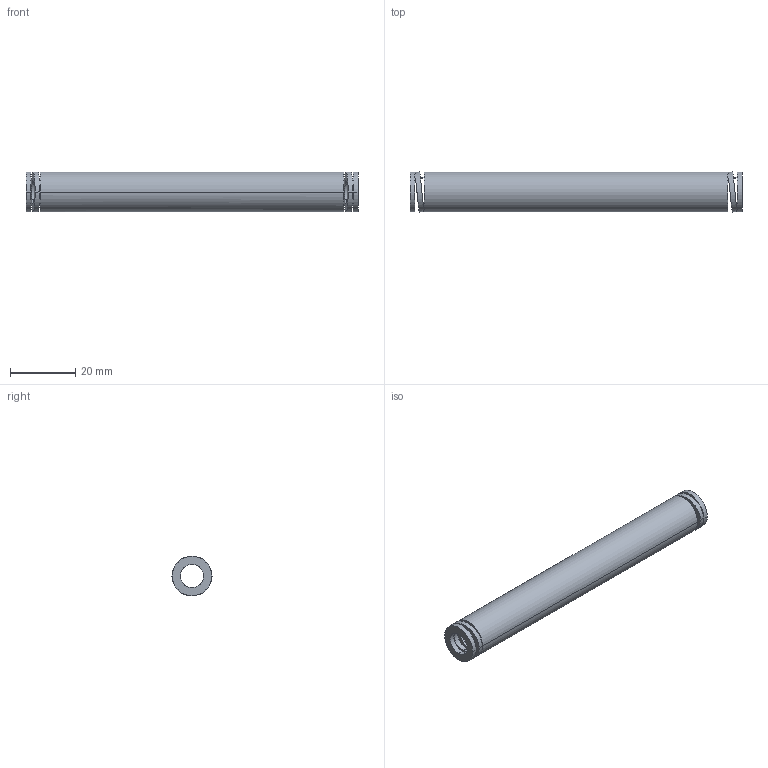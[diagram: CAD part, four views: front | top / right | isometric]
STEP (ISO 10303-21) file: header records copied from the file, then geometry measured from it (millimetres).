
FILE_DESCRIPTION(('CATIA V5 STEP Exchange'),'2;1');
FILE_NAME('C:\Users\Utente\Desktop\IO LAVORO\3D X SITO CF\X SITO\3D files 392B\392-B13-102.stp','2021-08-12T12:43:05+00:00',('none'),('none'),'CATIA Version 5 Release 20 GA (IN-10)','CATIA V5 STEP AP203','none');
FILE_SCHEMA(('CONFIG_CONTROL_DESIGN'));
Length unit declared in the file: millimetre
Products named in the file (1): 392-B13-102
Bounding box: 102 x 12.29 x 12.2 mm (x, y, z)
Volume: 7567.7 mm3; surface area: 6817.4 mm2
Topology: 1 solids, 1 shells, 38 faces, 92 edges, 64 vertices
Faces by surface type: cylinder 28, plane 10
Entity records: 1563 total; most frequent: CARTESIAN_POINT 670, ORIENTED_EDGE 184, DIRECTION 131, EDGE_CURVE 92, AXIS2_PLACEMENT_3D 66, VERTEX_POINT 64, EDGE_LOOP 56, ADVANCED_FACE 38
